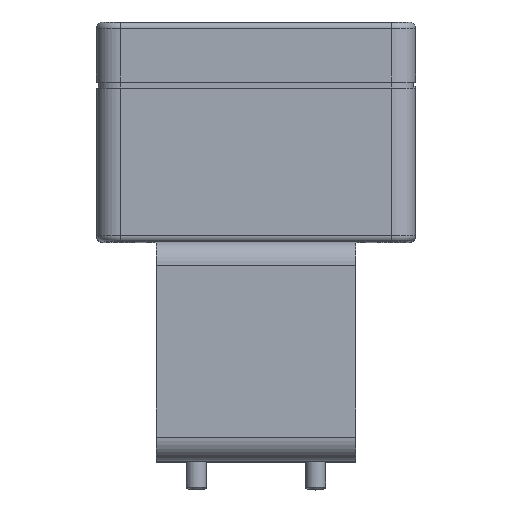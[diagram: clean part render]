
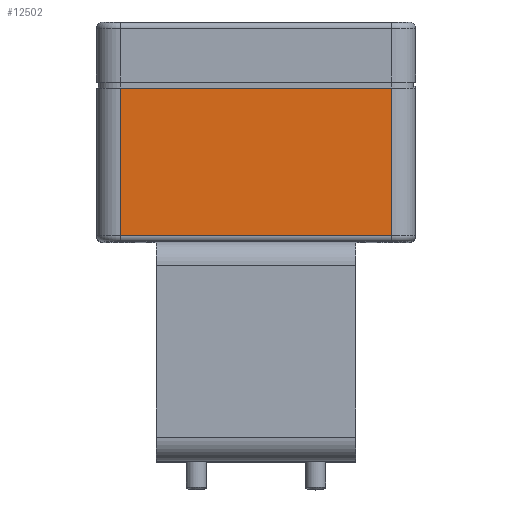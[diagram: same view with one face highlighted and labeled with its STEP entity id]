
A CAD part, top view. The second image highlights one B-rep face of the part: STEP entity #12502.
In plain terms, the highlighted planar face has unit normal (0, 0, 1).
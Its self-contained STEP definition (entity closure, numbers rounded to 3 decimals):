
#11925=CARTESIAN_POINT('',(26.45,112.855,155.667));
#11926=VERTEX_POINT('',#11925);
#11942=CARTESIAN_POINT('',(26.45,149.855,155.667));
#11943=VERTEX_POINT('',#11942);
#11951=CARTESIAN_POINT('',(26.45,149.855,155.667));
#11952=DIRECTION('',(0.0,-1.0,0.0));
#11953=VECTOR('',#11952,37.0);
#11954=LINE('',#11951,#11953);
#11955=EDGE_CURVE('',#11943,#11926,#11954,.T.);
#12472=CARTESIAN_POINT('',(32.45,111.355,155.667));
#12473=DIRECTION('',(0.0,0.0,1.0));
#12474=DIRECTION('',(0.0,-1.0,0.0));
#12475=AXIS2_PLACEMENT_3D('',#12472,#12473,#12474);
#12476=PLANE('',#12475);
#12477=CARTESIAN_POINT('',(-41.55,112.855,155.667));
#12478=VERTEX_POINT('',#12477);
#12479=CARTESIAN_POINT('',(26.45,112.855,155.667));
#12480=DIRECTION('',(-1.0,0.0,0.0));
#12481=VECTOR('',#12480,68.0);
#12482=LINE('',#12479,#12481);
#12483=EDGE_CURVE('',#11926,#12478,#12482,.T.);
#12484=ORIENTED_EDGE('',*,*,#12483,.F.);
#12485=ORIENTED_EDGE('',*,*,#11955,.F.);
#12486=CARTESIAN_POINT('',(-41.55,149.855,155.667));
#12487=VERTEX_POINT('',#12486);
#12488=CARTESIAN_POINT('',(26.45,149.855,155.667));
#12489=DIRECTION('',(-1.0,0.0,0.0));
#12490=VECTOR('',#12489,68.);
#12491=LINE('',#12488,#12490);
#12492=EDGE_CURVE('',#11943,#12487,#12491,.T.);
#12493=ORIENTED_EDGE('',*,*,#12492,.T.);
#12494=CARTESIAN_POINT('',(-41.55,112.855,155.667));
#12495=DIRECTION('',(0.0,1.0,0.0));
#12496=VECTOR('',#12495,37.);
#12497=LINE('',#12494,#12496);
#12498=EDGE_CURVE('',#12478,#12487,#12497,.T.);
#12499=ORIENTED_EDGE('',*,*,#12498,.F.);
#12500=EDGE_LOOP('',(#12484,#12485,#12493,#12499));
#12501=FACE_OUTER_BOUND('',#12500,.T.);
#12502=ADVANCED_FACE('',(#12501),#12476,.T.);
